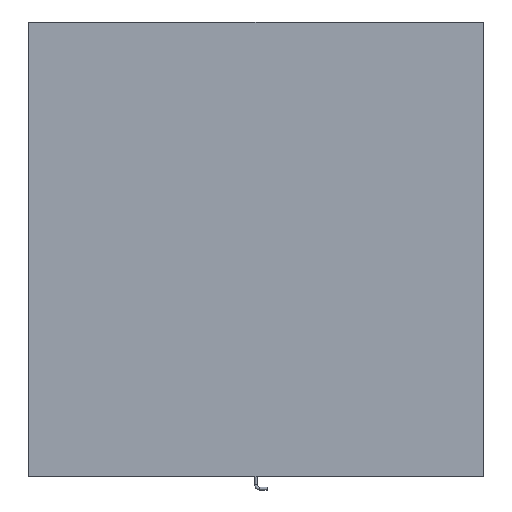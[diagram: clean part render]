
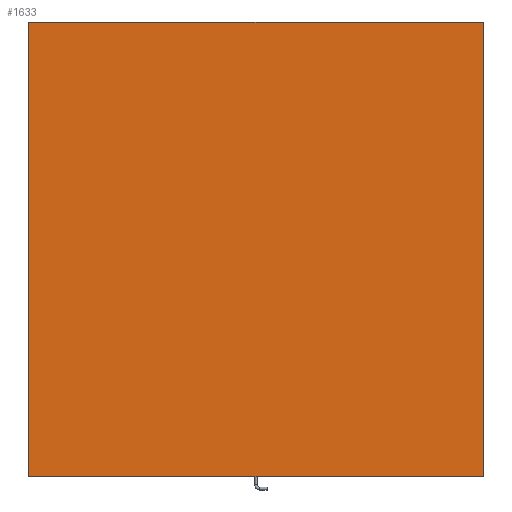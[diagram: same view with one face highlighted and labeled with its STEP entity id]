
A CAD part, top view. The second image highlights one B-rep face of the part: STEP entity #1633.
In plain terms, the highlighted planar face has unit normal (0, 0, 1).
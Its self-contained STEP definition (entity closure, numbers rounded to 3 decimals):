
#16 = ORIENTED_EDGE ( 'NONE', *, *, #189, .T. ) ;
#83 = CARTESIAN_POINT ( 'NONE',  ( -306.5, 307., 40. ) ) ;
#87 = ORIENTED_EDGE ( 'NONE', *, *, #1424, .T. ) ;
#94 = VECTOR ( 'NONE', #743, 1000. ) ;
#127 = CARTESIAN_POINT ( 'NONE',  ( -307., -307., 40. ) ) ;
#138 = LINE ( 'NONE', #197, #94 ) ;
#175 = VERTEX_POINT ( 'NONE', #625 ) ;
#179 = LINE ( 'NONE', #1802, #244 ) ;
#189 = EDGE_CURVE ( 'NONE', #1601, #175, #1475, .T. ) ;
#197 = CARTESIAN_POINT ( 'NONE',  ( -307., -307., 40. ) ) ;
#202 = VECTOR ( 'NONE', #1655, 1000. ) ;
#211 = VERTEX_POINT ( 'NONE', #1683 ) ;
#228 = DIRECTION ( 'NONE',  ( 0.707, -0.707, 0. ) ) ;
#244 = VECTOR ( 'NONE', #1356, 1000. ) ;
#247 = CARTESIAN_POINT ( 'NONE',  ( 307., 306.5, 40. ) ) ;
#264 = LINE ( 'NONE', #127, #1110 ) ;
#320 = ORIENTED_EDGE ( 'NONE', *, *, #1719, .T. ) ;
#321 = EDGE_CURVE ( 'NONE', #211, #1353, #1571, .T. ) ;
#352 = CARTESIAN_POINT ( 'NONE',  ( 0., 0., 40. ) ) ;
#499 = PLANE ( 'NONE',  #995 ) ;
#506 = DIRECTION ( 'NONE',  ( -1., 0., 0. ) ) ;
#521 = DIRECTION ( 'NONE',  ( -0.707, 0.707, 0. ) ) ;
#533 = ORIENTED_EDGE ( 'NONE', *, *, #1524, .T. ) ;
#580 = LINE ( 'NONE', #1194, #202 ) ;
#606 = ORIENTED_EDGE ( 'NONE', *, *, #321, .T. ) ;
#625 = CARTESIAN_POINT ( 'NONE',  ( -306.5, -307., 40. ) ) ;
#677 = VECTOR ( 'NONE', #1703, 1000. ) ;
#681 = ORIENTED_EDGE ( 'NONE', *, *, #1154, .T. ) ;
#743 = DIRECTION ( 'NONE',  ( 0., -1., 0. ) ) ;
#764 = CARTESIAN_POINT ( 'NONE',  ( -307., 306.5, 40. ) ) ;
#860 = VERTEX_POINT ( 'NONE', #1714 ) ;
#885 = VERTEX_POINT ( 'NONE', #83 ) ;
#995 = AXIS2_PLACEMENT_3D ( 'NONE', #352, #1084, #506 ) ;
#1034 = LINE ( 'NONE', #1131, #1373 ) ;
#1055 = LINE ( 'NONE', #764, #1085 ) ;
#1084 = DIRECTION ( 'NONE',  ( 0., 0., -1. ) ) ;
#1085 = VECTOR ( 'NONE', #1778, 1000. ) ;
#1110 = VECTOR ( 'NONE', #1140, 1000. ) ;
#1123 = CARTESIAN_POINT ( 'NONE',  ( 307., -307., 40. ) ) ;
#1131 = CARTESIAN_POINT ( 'NONE',  ( 306.5, 307., 40. ) ) ;
#1140 = DIRECTION ( 'NONE',  ( 1., 0., 0. ) ) ;
#1154 = EDGE_CURVE ( 'NONE', #1474, #885, #580, .T. ) ;
#1170 = EDGE_CURVE ( 'NONE', #860, #211, #179, .T. ) ;
#1194 = CARTESIAN_POINT ( 'NONE',  ( -307., 307., 40. ) ) ;
#1210 = VERTEX_POINT ( 'NONE', #1796 ) ;
#1247 = CARTESIAN_POINT ( 'NONE',  ( -306.5, -307., 40. ) ) ;
#1340 = VECTOR ( 'NONE', #228, 1000. ) ;
#1341 = CARTESIAN_POINT ( 'NONE',  ( -307., -306.5, 40. ) ) ;
#1353 = VERTEX_POINT ( 'NONE', #247 ) ;
#1356 = DIRECTION ( 'NONE',  ( 0.707, 0.707, 0. ) ) ;
#1373 = VECTOR ( 'NONE', #521, 1000. ) ;
#1424 = EDGE_CURVE ( 'NONE', #175, #860, #264, .T. ) ;
#1441 = FACE_OUTER_BOUND ( 'NONE', #1665, .T. ) ;
#1462 = ORIENTED_EDGE ( 'NONE', *, *, #1697, .T. ) ;
#1474 = VERTEX_POINT ( 'NONE', #1711 ) ;
#1475 = LINE ( 'NONE', #1247, #1340 ) ;
#1524 = EDGE_CURVE ( 'NONE', #1210, #1601, #138, .T. ) ;
#1571 = LINE ( 'NONE', #1123, #677 ) ;
#1601 = VERTEX_POINT ( 'NONE', #1341 ) ;
#1602 = ORIENTED_EDGE ( 'NONE', *, *, #1170, .T. ) ;
#1633 = ADVANCED_FACE ( 'NONE', ( #1441 ), #499, .F. ) ;
#1655 = DIRECTION ( 'NONE',  ( -1., 0., 0. ) ) ;
#1665 = EDGE_LOOP ( 'NONE', ( #533, #16, #87, #1602, #606, #320, #681, #1462 ) ) ;
#1683 = CARTESIAN_POINT ( 'NONE',  ( 307., -306.5, 40. ) ) ;
#1697 = EDGE_CURVE ( 'NONE', #885, #1210, #1055, .T. ) ;
#1703 = DIRECTION ( 'NONE',  ( 0., 1., 0. ) ) ;
#1711 = CARTESIAN_POINT ( 'NONE',  ( 306.5, 307., 40. ) ) ;
#1714 = CARTESIAN_POINT ( 'NONE',  ( 306.5, -307., 40. ) ) ;
#1719 = EDGE_CURVE ( 'NONE', #1353, #1474, #1034, .T. ) ;
#1778 = DIRECTION ( 'NONE',  ( -0.707, -0.707, 0. ) ) ;
#1796 = CARTESIAN_POINT ( 'NONE',  ( -307., 306.5, 40. ) ) ;
#1802 = CARTESIAN_POINT ( 'NONE',  ( 307., -306.5, 40. ) ) ;
